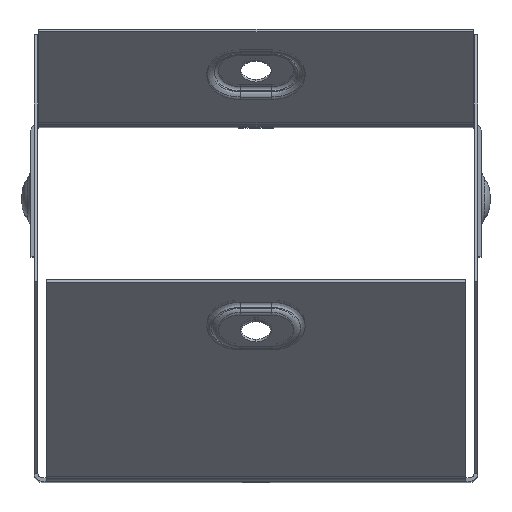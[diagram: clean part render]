
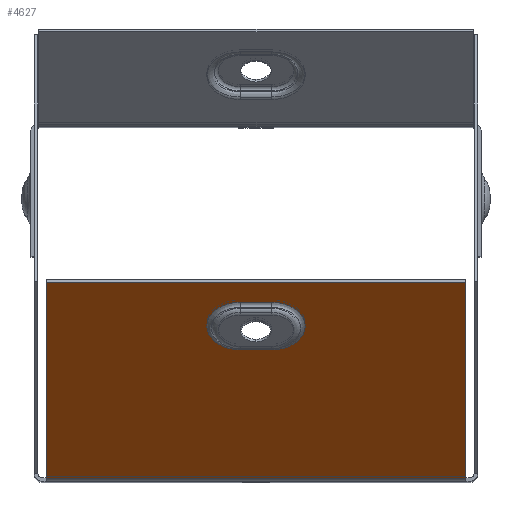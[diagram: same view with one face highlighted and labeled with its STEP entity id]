
A CAD part, top view. The second image highlights one B-rep face of the part: STEP entity #4627.
In plain terms, the highlighted planar face has unit normal (0, -0.707, 0.707).
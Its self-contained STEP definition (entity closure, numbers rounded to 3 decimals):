
#31 = LINE ( 'NONE', #9861, #7018 ) ;
#186 = CIRCLE ( 'NONE', #6853, 7.598 ) ;
#491 = CARTESIAN_POINT ( 'NONE',  ( 48.2, -80.8, 96. ) ) ;
#677 = CARTESIAN_POINT ( 'NONE',  ( 47.299, -80.273, 96.527 ) ) ;
#727 = CARTESIAN_POINT ( 'NONE',  ( -47.299, -80.8, 96. ) ) ;
#804 = CARTESIAN_POINT ( 'NONE',  ( 3.5, -51.206, 125.594 ) ) ;
#890 = ORIENTED_EDGE ( 'NONE', *, *, #2409, .T. ) ;
#1303 = VERTEX_POINT ( 'NONE', #8869 ) ;
#1304 = DIRECTION ( 'NONE',  ( 1., 0., 0. ) ) ;
#1379 = CARTESIAN_POINT ( 'NONE',  ( 48.2, -35.934, 140.866 ) ) ;
#1631 = CARTESIAN_POINT ( 'NONE',  ( 3.5, -40.461, 136.339 ) ) ;
#1784 = CARTESIAN_POINT ( 'NONE',  ( -3.5, -40.461, 136.339 ) ) ;
#2409 = EDGE_CURVE ( 'NONE', #9930, #1303, #3141, .T. ) ;
#2575 = LINE ( 'NONE', #9989, #2917 ) ;
#2744 = EDGE_CURVE ( 'NONE', #6029, #5857, #11480, .T. ) ;
#2917 = VECTOR ( 'NONE', #1304, 1000. ) ;
#3141 = LINE ( 'NONE', #727, #5686 ) ;
#3558 = FACE_BOUND ( 'NONE', #12414, .T. ) ;
#3837 = EDGE_CURVE ( 'NONE', #5090, #6029, #5287, .T. ) ;
#3955 = LINE ( 'NONE', #1379, #6347 ) ;
#4044 = DIRECTION ( 'NONE',  ( 0., -0.707, -0.707 ) ) ;
#4627 = ADVANCED_FACE ( 'NONE', ( #3558, #7493 ), #5917, .F. ) ;
#4739 = VERTEX_POINT ( 'NONE', #677 ) ;
#4964 = CARTESIAN_POINT ( 'NONE',  ( -3.5, -51.206, 125.594 ) ) ;
#5090 = VERTEX_POINT ( 'NONE', #6272 ) ;
#5266 = ORIENTED_EDGE ( 'NONE', *, *, #10031, .T. ) ;
#5287 = LINE ( 'NONE', #804, #11114 ) ;
#5367 = CARTESIAN_POINT ( 'NONE',  ( 3.5, -45.834, 130.966 ) ) ;
#5383 = EDGE_CURVE ( 'NONE', #4739, #1303, #9707, .T. ) ;
#5686 = VECTOR ( 'NONE', #4044, 1000. ) ;
#5769 = ORIENTED_EDGE ( 'NONE', *, *, #5383, .F. ) ;
#5816 = DIRECTION ( 'NONE',  ( 0., 0.707, 0.707 ) ) ;
#5857 = VERTEX_POINT ( 'NONE', #1784 ) ;
#5895 = ORIENTED_EDGE ( 'NONE', *, *, #3837, .T. ) ;
#5917 = PLANE ( 'NONE',  #8429 ) ;
#6020 = EDGE_LOOP ( 'NONE', ( #890, #5769, #12692, #13549 ) ) ;
#6029 = VERTEX_POINT ( 'NONE', #4964 ) ;
#6272 = CARTESIAN_POINT ( 'NONE',  ( 3.5, -51.206, 125.594 ) ) ;
#6347 = VECTOR ( 'NONE', #8998, 1000. ) ;
#6853 = AXIS2_PLACEMENT_3D ( 'NONE', #5367, #13021, #8681 ) ;
#6868 = DIRECTION ( 'NONE',  ( 0., 0.707, -0.707 ) ) ;
#6900 = CARTESIAN_POINT ( 'NONE',  ( -3.5, -45.834, 130.966 ) ) ;
#6962 = VECTOR ( 'NONE', #7646, 1000. ) ;
#7018 = VECTOR ( 'NONE', #12031, 1000. ) ;
#7232 = CARTESIAN_POINT ( 'NONE',  ( 47.299, -35.934, 140.866 ) ) ;
#7493 = FACE_OUTER_BOUND ( 'NONE', #6020, .T. ) ;
#7646 = DIRECTION ( 'NONE',  ( -1., 0., 0. ) ) ;
#8196 = CARTESIAN_POINT ( 'NONE',  ( -47.299, -35.934, 140.866 ) ) ;
#8417 = DIRECTION ( 'NONE',  ( -1., 0., 0. ) ) ;
#8429 = AXIS2_PLACEMENT_3D ( 'NONE', #491, #6868, #5816 ) ;
#8681 = DIRECTION ( 'NONE',  ( 0., 0.707, 0.707 ) ) ;
#8869 = CARTESIAN_POINT ( 'NONE',  ( -47.299, -80.273, 96.527 ) ) ;
#8998 = DIRECTION ( 'NONE',  ( -1., 0., 0. ) ) ;
#9275 = EDGE_CURVE ( 'NONE', #9985, #9930, #3955, .T. ) ;
#9437 = EDGE_CURVE ( 'NONE', #4739, #9985, #31, .T. ) ;
#9703 = EDGE_CURVE ( 'NONE', #5857, #10787, #2575, .T. ) ;
#9707 = LINE ( 'NONE', #13865, #6962 ) ;
#9861 = CARTESIAN_POINT ( 'NONE',  ( 47.299, -81.015, 95.785 ) ) ;
#9930 = VERTEX_POINT ( 'NONE', #8196 ) ;
#9985 = VERTEX_POINT ( 'NONE', #7232 ) ;
#9989 = CARTESIAN_POINT ( 'NONE',  ( 3.5, -40.461, 136.339 ) ) ;
#10031 = EDGE_CURVE ( 'NONE', #10787, #5090, #186, .T. ) ;
#10310 = AXIS2_PLACEMENT_3D ( 'NONE', #6900, #11248, #13296 ) ;
#10681 = ORIENTED_EDGE ( 'NONE', *, *, #9703, .T. ) ;
#10787 = VERTEX_POINT ( 'NONE', #1631 ) ;
#11114 = VECTOR ( 'NONE', #8417, 1000. ) ;
#11248 = DIRECTION ( 'NONE',  ( 0., 0.707, -0.707 ) ) ;
#11480 = CIRCLE ( 'NONE', #10310, 7.598 ) ;
#12031 = DIRECTION ( 'NONE',  ( 0., 0.707, 0.707 ) ) ;
#12414 = EDGE_LOOP ( 'NONE', ( #10681, #5266, #5895, #14125 ) ) ;
#12692 = ORIENTED_EDGE ( 'NONE', *, *, #9437, .T. ) ;
#13021 = DIRECTION ( 'NONE',  ( 0., 0.707, -0.707 ) ) ;
#13296 = DIRECTION ( 'NONE',  ( 0., 0.707, 0.707 ) ) ;
#13549 = ORIENTED_EDGE ( 'NONE', *, *, #9275, .T. ) ;
#13865 = CARTESIAN_POINT ( 'NONE',  ( 48.2, -80.273, 96.527 ) ) ;
#14125 = ORIENTED_EDGE ( 'NONE', *, *, #2744, .T. ) ;
